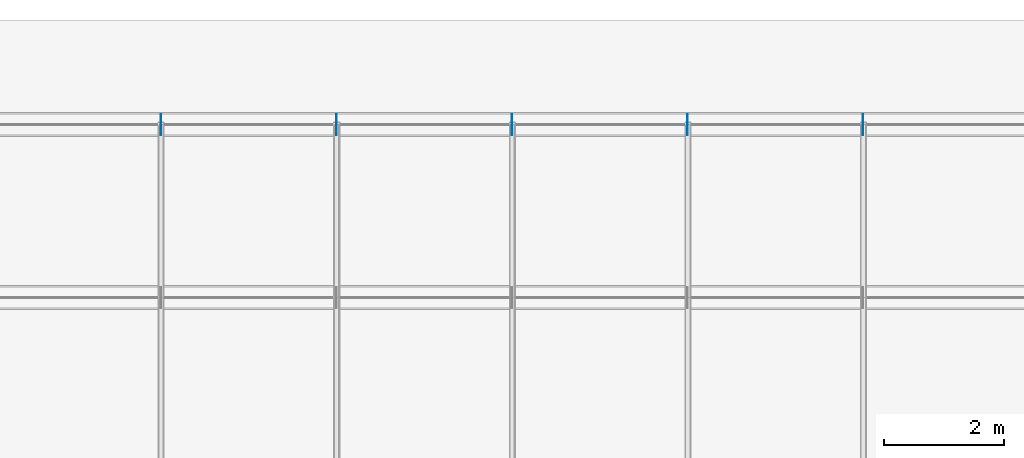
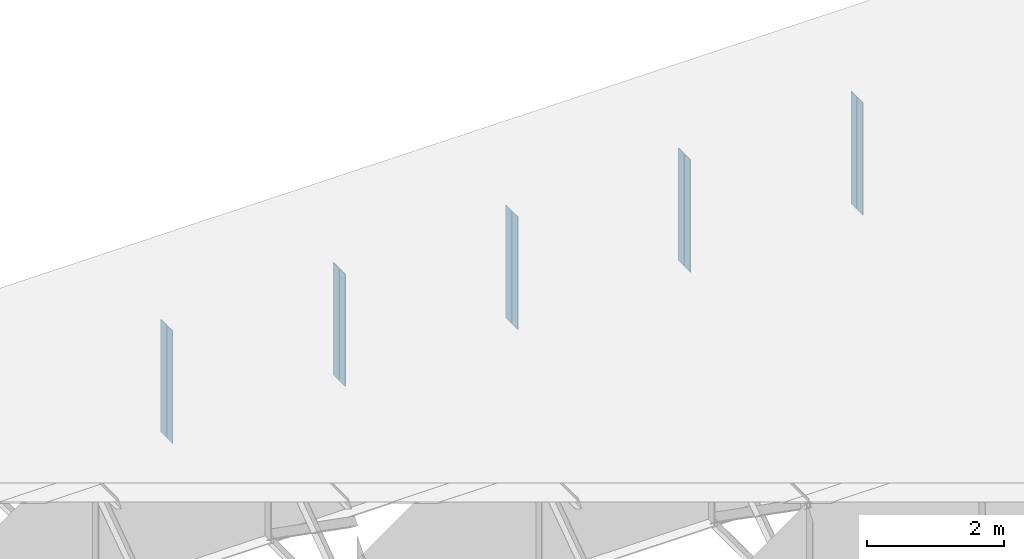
# One storey, part 12 of 13: 10 plates.
"""IFC4 building model written with IfcOpenShell, lengths in metres."""

import ifcopenshell
import ifcopenshell.guid

model = None  # the IFC model being written
_history = None  # IfcOwnerHistory: only IFC2X3 demands one
_inside = {}  # id of a spatial element -> (the spatial element, [elements in it])
_under = {}  # id of a project, library or spatial element -> (it, [spatial elements below it])
_declared = {}  # id of a project -> (the project, [libraries it declares])
_typed = {}  # id of a type object -> (the type object, [elements of that type])
_made_of = {}  # id of a material, layer set ... -> (it, [elements and type objects made of it])


def new_model(schema):
    """Start an empty IFC model of exactly this schema.

    Asked for "IFC4X3", IfcOpenShell would pick the latest addendum, in which some entities
    have other attributes; the version numbers below select the first issue.
    IFC2X3 requires an IfcOwnerHistory on every rooted entity: one is made here for all.
    """
    global model, _history
    if schema == "IFC4X3":
        model = ifcopenshell.file(schema_version=(4, 3, 0, 0))
    else:
        model = ifcopenshell.file(schema=schema)
    _inside.clear()
    _under.clear()
    _declared.clear()
    _typed.clear()
    _made_of.clear()
    _history = None
    if model.schema == "IFC2X3":
        org = make("IfcOrganization", Name="unknown")
        user = make(
            "IfcPersonAndOrganization",
            ThePerson=make("IfcPerson", FamilyName="unknown"),
            TheOrganization=org,
        )
        app = make(
            "IfcApplication",
            ApplicationDeveloper=org,
            Version="unknown",
            ApplicationFullName="unknown",
            ApplicationIdentifier="unknown",
        )
        _history = make(
            "IfcOwnerHistory",
            OwningUser=user,
            OwningApplication=app,
            ChangeAction="ADDED",
            CreationDate=0,
        )
    return model


def make(cls, **values):
    """One entity of the class cls with the attributes given. An attribute that is None is left unset."""
    return model.create_entity(
        cls, **{name: value for name, value in values.items() if value is not None}
    )


def rooted(cls, **values):
    """An entity with a GlobalId (a new one), such as an element, a storey or a relation."""
    return make(cls, GlobalId=ifcopenshell.guid.new(), OwnerHistory=_history, **values)


def si_unit(unit_type, name, prefix=None):
    """IfcSIUnit, for example si_unit("LENGTHUNIT", "METRE", prefix="MILLI")."""
    return make("IfcSIUnit", UnitType=unit_type, Prefix=prefix, Name=name)


def assignment(units):
    """IfcUnitAssignment: the units of a project."""
    return None if units is None else make("IfcUnitAssignment", Units=units)


def point(xyz):
    """IfcCartesianPoint."""
    return None if xyz is None else make("IfcCartesianPoint", Coordinates=xyz)


def direction(xyz):
    """IfcDirection."""
    return None if xyz is None else make("IfcDirection", DirectionRatios=xyz)


def frame(location, z_axis=None, x_axis=None):
    """IfcAxis2Placement3D, a coordinate frame: its origin and axes. An axis left out is left unset."""
    return make(
        "IfcAxis2Placement3D",
        Location=point(location),
        Axis=direction(z_axis),
        RefDirection=direction(x_axis),
    )


def frame_2d(location, x_axis=None):
    """IfcAxis2Placement2D, a coordinate frame in the plane: its origin and x axis."""
    return make(
        "IfcAxis2Placement2D", Location=point(location), RefDirection=direction(x_axis)
    )


def origin():
    """The frame at (0, 0, 0) with its axes left unset."""
    return frame((0.0, 0.0, 0.0))


def origin_with_axes():
    """The frame at (0, 0, 0) with the z axis (0, 0, 1) and the x axis (1, 0, 0) written out."""
    return frame((0.0, 0.0, 0.0), z_axis=(0.0, 0.0, 1.0), x_axis=(1.0, 0.0, 0.0))


def origin_2d_with_axis():
    """The frame at (0, 0) in the plane with the x axis (1, 0) written out."""
    return frame_2d((0.0, 0.0), x_axis=(1.0, 0.0))


def place(relative_to, where):
    """IfcLocalPlacement: puts the frame where relative to a parent placement (None: the world)."""
    return make(
        "IfcLocalPlacement", PlacementRelTo=relative_to, RelativePlacement=where
    )


def context(
    kind, dimensions, precision=None, world=None, true_north=None, identifier=None
):
    """IfcGeometricRepresentationContext, for example the 3D "Model" context."""
    return make(
        "IfcGeometricRepresentationContext",
        ContextIdentifier=identifier,
        ContextType=kind,
        CoordinateSpaceDimension=dimensions,
        Precision=precision,
        WorldCoordinateSystem=world,
        TrueNorth=true_north,
    )


def subcontext(parent, identifier, kind, view, scale=None):
    """IfcGeometricRepresentationSubContext, for example "Body" below "Model"."""
    return make(
        "IfcGeometricRepresentationSubContext",
        ContextIdentifier=identifier,
        ContextType=kind,
        ParentContext=parent,
        TargetScale=scale,
        TargetView=view,
    )


def project(units=None, contexts=None):
    """IfcProject with its units and contexts."""
    return rooted(
        "IfcProject",
        Name="project",
        RepresentationContexts=contexts,
        UnitsInContext=assignment(units),
    )


def spatial(cls, under=None, at=None, **own):
    """A site, building, storey or space (cls), placed at a placement, below another one or the project."""
    s = rooted(cls, ObjectPlacement=at, **own)
    if under is not None:
        _under.setdefault(under.id(), (under, []))[1].append(s)
    return s


def profile(cls, at=None, kind="AREA", **sizes):
    """A parametric profile (cls). Its sizes go by their IFC names, for example OverallWidth=200.0."""
    return make(cls, ProfileType=kind, Position=at, **sizes)


def rectangle(**sizes):
    """IfcRectangleProfileDef."""
    return profile("IfcRectangleProfileDef", **sizes)


def extrude(swept, where, along, depth):
    """IfcExtrudedAreaSolid: the profile swept, set in the frame where, extruded along a direction by depth."""
    return make(
        "IfcExtrudedAreaSolid",
        SweptArea=swept,
        Position=where,
        ExtrudedDirection=direction(along),
        Depth=depth,
    )


def shape(context_of_items, identifier, shape_type, items):
    """IfcShapeRepresentation: the items that make up one representation, for example the "Body"."""
    return make(
        "IfcShapeRepresentation",
        ContextOfItems=context_of_items,
        RepresentationIdentifier=identifier,
        RepresentationType=shape_type,
        Items=items,
    )


def made_of(thing, what):
    """Note that an element or type object is made of a material, layer set ...; save() writes the relation."""
    if what is not None:
        _made_of.setdefault(what.id(), (what, []))[1].append(thing)
    return thing


def element(
    cls,
    number,
    at=None,
    inside=None,
    cuts=None,
    type_object=None,
    material=None,
    context=None,
    identifier="Body",
    shape_type=None,
    held_by="IfcProductDefinitionShape",
    body=None,
    shapes=None,
    **own,
):
    """One element of the class cls, such as IfcWall. Its Tag is "e" and its number.

    at: its placement. inside: the storey or other place that contains it. cuts: it is an
    opening in that element (IfcRelVoidsElement). A single representation is given by context,
    identifier, shape_type and body (its items); several are given by shapes. held_by: the class
    of the entity that holds the representations. save() writes the other relations.
    """
    e = rooted(cls, Tag="e%d" % number, ObjectPlacement=at, **own)
    if body is not None:
        shapes = [shape(context, identifier, shape_type, body)]
    if shapes is not None:
        e.Representation = make(held_by, Representations=shapes)
    if inside is not None:
        _inside.setdefault(inside.id(), (inside, []))[1].append(e)
    if cuts is not None:
        rooted(
            "IfcRelVoidsElement", RelatingBuildingElement=cuts, RelatedOpeningElement=e
        )
    if type_object is not None:
        _typed.setdefault(type_object.id(), (type_object, []))[1].append(e)
    return made_of(e, material)


def aggregate(whole, parts):
    """IfcRelAggregates: a whole, such as a stair, and the parts it consists of."""
    return rooted("IfcRelAggregates", RelatingObject=whole, RelatedObjects=parts)


def save(model, path):
    """Write the relations noted so far, then the file.

    IfcRelAggregates (storeys below a building ...), IfcRelContainedInSpatialStructure (elements
    in a storey), IfcRelDefinesByType, IfcRelAssociatesMaterial and IfcRelDeclares: one each for
    every whole, place, type object, material and project.
    """
    for whole, parts in _under.values():
        aggregate(whole, parts)
    for where, things in _inside.values():
        rooted(
            "IfcRelContainedInSpatialStructure",
            RelatedElements=things,
            RelatingStructure=where,
        )
    for kind, things in _typed.values():
        rooted("IfcRelDefinesByType", RelatedObjects=things, RelatingType=kind)
    for what, things in _made_of.values():
        rooted("IfcRelAssociatesMaterial", RelatedObjects=things, RelatingMaterial=what)
    for by, libraries in _declared.values():
        rooted("IfcRelDeclares", RelatingContext=by, RelatedDefinitions=libraries)
    model.write(path)


model = new_model("IFC4")

# Units and contexts
model_context = context("Model", 3, precision=1e-05, world=origin())
body_context = subcontext(model_context, "Body", "Model", "MODEL_VIEW")
ifc_project = project(units=[si_unit("LENGTHUNIT", "METRE"), si_unit("AREAUNIT", "SQUARE_METRE"), si_unit("VOLUMEUNIT", "CUBIC_METRE"), si_unit("PLANEANGLEUNIT", "RADIAN")], contexts=[model_context])

# Site, building, storey
site_placement = place(None, origin_with_axes())
site = spatial("IfcSite", under=ifc_project, at=site_placement, Name="Default Site")
building_placement = place(site_placement, origin_with_axes())
building = spatial("IfcBuilding", under=site, at=building_placement, Name="Bridge Structure")
storey_placement = place(building_placement, origin_with_axes())
storey = spatial("IfcBuildingStorey", under=building, at=storey_placement, Name="Superstructure")

# Plates
for number, where, z_axis, x_axis, name in (
    (1, (17.496, 4.4035, -1.006), (0.0, 0.0, 1.0), (1.0, 0.0, 0.0), "Intermediate Stiffener 4"),
    (2, (17.496, 4.2215, -1.006), (0.0, 0.0, 1.0), (1.0, 0.0, 0.0), "Intermediate Stiffener 4"),
    (3, (20.412, 4.4035, -1.006), (0.0, 0.0, 1.0), (1.0, 0.0, 0.0), "Intermediate Stiffener 4"),
    (4, (20.412, 4.2215, -1.006), (0.0, 0.0, 1.0), (1.0, 0.0, 0.0), "Intermediate Stiffener 4"),
    (5, (23.328, 4.4035, -1.006), (0.0, 0.0, 1.0), (1.0, 0.0, 0.0), "Intermediate Stiffener 4"),
    (6, (23.328, 4.2215, -1.006), (0.0, 0.0, 1.0), (1.0, 0.0, 0.0), "Intermediate Stiffener 4"),
    (7, (26.244, 4.4035, -1.006), (0.0, 0.0, 1.0), (1.0, 0.0, 0.0), "Intermediate Stiffener 4"),
    (8, (26.244, 4.2215, -1.006), (0.0, 0.0, 1.0), (1.0, 0.0, 0.0), "Intermediate Stiffener 4"),
    (9, (29.16, 4.4035, -1.006), (0.0, 0.0, 1.0), (1.0, 0.0, 0.0), "Intermediate Stiffener 4"),
    (10, (29.16, 4.2215, -1.006), (0.0, 0.0, 1.0), (1.0, 0.0, 0.0), "Intermediate Stiffener 4"),
):
    element("IfcPlate", number, at=place(storey_placement, frame(where, z_axis=z_axis, x_axis=x_axis)), inside=storey, Name=name, context=body_context, shape_type="SweptSolid", body=[
        extrude(rectangle(XDim=0.012, YDim=0.168, at=origin_2d_with_axis()), origin_with_axes(), (0.0, 0.0, 1.0), 2.012),
    ])

save(model, "model.ifc")
